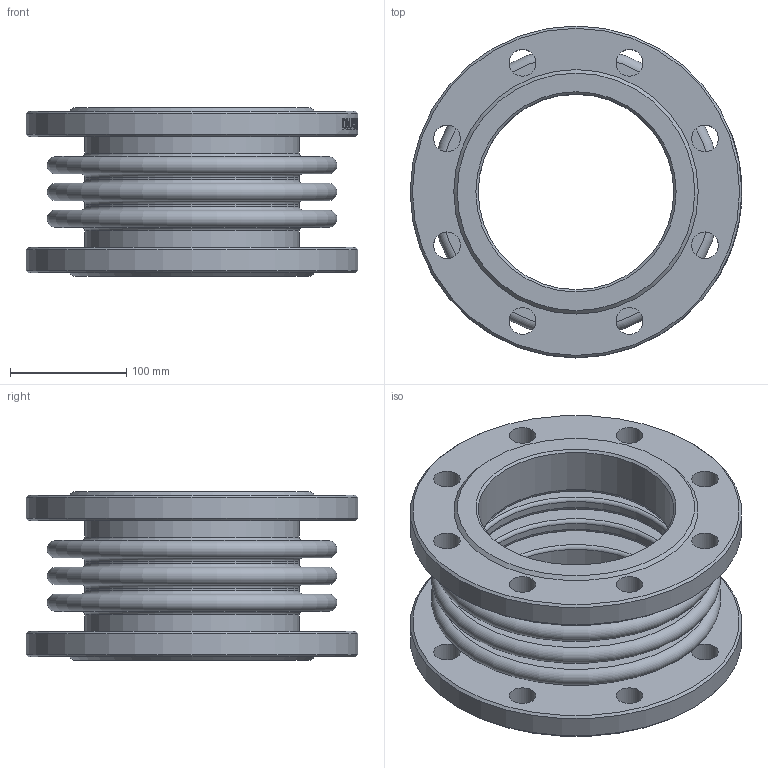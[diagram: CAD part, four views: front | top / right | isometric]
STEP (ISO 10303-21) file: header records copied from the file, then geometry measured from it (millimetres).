
FILE_DESCRIPTION(/* description */ ('D140-02118','CAx-IF Rec.Pracs.---Representation and Presentation of Product Manufacturing Information (PMI)---4.0---2014-10-13'),/* implementation_level */ '2;1');
FILE_NAME(/* name */ '',/* time_stamp */ '2026-04-13T23:57:30+03:00',/* author */ ('DN.RU'),/* organization */ ('DN.RU'),/* preprocessor_version */ 'ST-DEVELOPER v20',/* originating_system */ 'Autodesk Inventor 2025',/* authorisation */ '');
FILE_SCHEMA (('AP242_MANAGED_MODEL_BASED_3D_ENGINEERING_MIM_LF { 1 0 10303 442 1 1 4 }'));
Length unit declared in the file: millimetre
Products named in the file (1): CB-3234-F
Bounding box: 285 x 285 x 145 mm (x, y, z)
Volume: 2160180.4 mm3; surface area: 624826.2 mm2
Topology: 1 solids, 1 shells, 279 faces, 715 edges, 476 vertices
Faces by surface type: plane 120, bspline 85, cylinder 48, torus 18, cone 8
Full cylindrical faces by diameter (mm): 23 x16, 168 x2, 180 x2, 184 x4, 192 x2, 285 x2
Entity records: 11652 total; most frequent: CARTESIAN_POINT 4495, ORIENTED_EDGE 1430, DIRECTION 1239, EDGE_CURVE 715, VERTEX_POINT 476, AXIS2_PLACEMENT_3D 466, STYLED_ITEM 352, EDGE_LOOP 351
